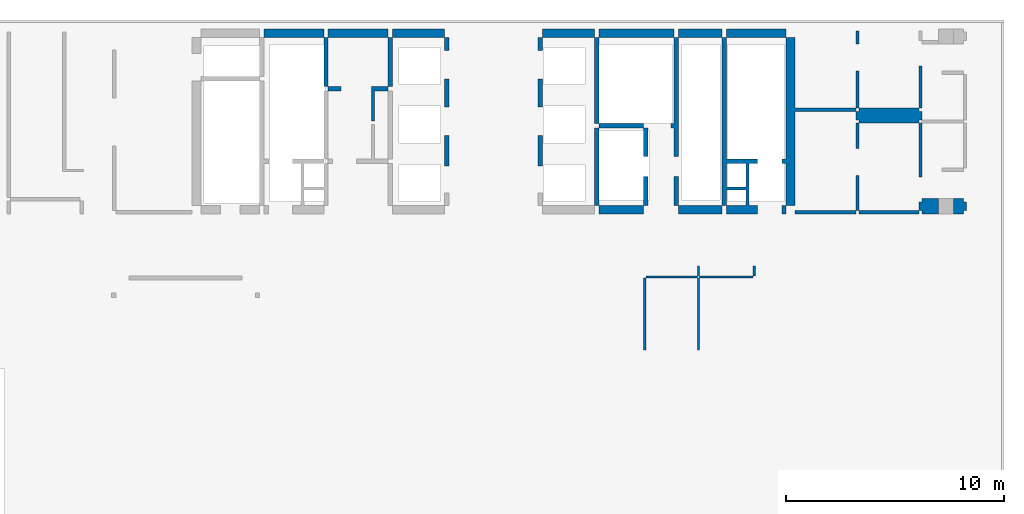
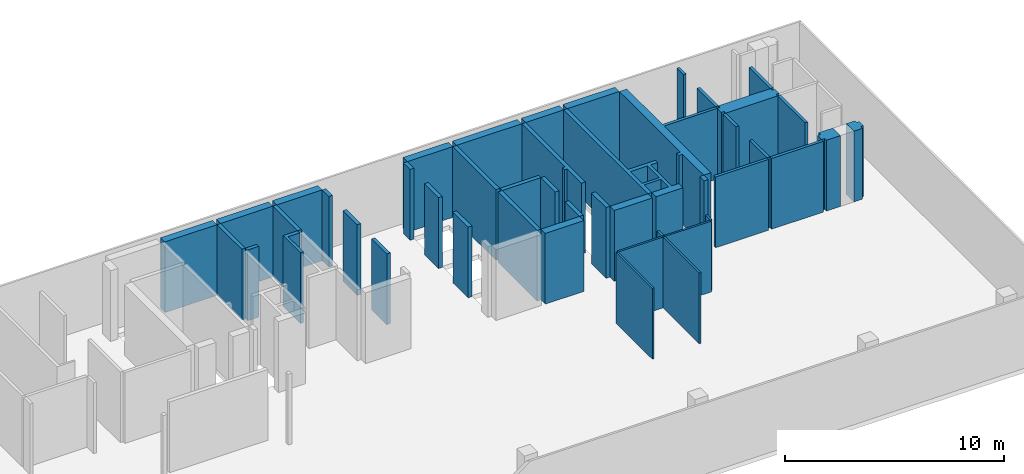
# One storey, part 2 of 4: 46 walls.
"""IFC4 building model written with IfcOpenShell, lengths in millimetres."""

import ifcopenshell
import ifcopenshell.guid

model = None  # the IFC model being written
_history = None  # IfcOwnerHistory: only IFC2X3 demands one
_inside = {}  # id of a spatial element -> (the spatial element, [elements in it])
_under = {}  # id of a project, library or spatial element -> (it, [spatial elements below it])
_declared = {}  # id of a project -> (the project, [libraries it declares])
_typed = {}  # id of a type object -> (the type object, [elements of that type])
_made_of = {}  # id of a material, layer set ... -> (it, [elements and type objects made of it])


def new_model(schema):
    """Start an empty IFC model of exactly this schema.

    Asked for "IFC4X3", IfcOpenShell would pick the latest addendum, in which some entities
    have other attributes; the version numbers below select the first issue.
    IFC2X3 requires an IfcOwnerHistory on every rooted entity: one is made here for all.
    """
    global model, _history
    if schema == "IFC4X3":
        model = ifcopenshell.file(schema_version=(4, 3, 0, 0))
    else:
        model = ifcopenshell.file(schema=schema)
    _inside.clear()
    _under.clear()
    _declared.clear()
    _typed.clear()
    _made_of.clear()
    _history = None
    if model.schema == "IFC2X3":
        org = make("IfcOrganization", Name="unknown")
        user = make(
            "IfcPersonAndOrganization",
            ThePerson=make("IfcPerson", FamilyName="unknown"),
            TheOrganization=org,
        )
        app = make(
            "IfcApplication",
            ApplicationDeveloper=org,
            Version="unknown",
            ApplicationFullName="unknown",
            ApplicationIdentifier="unknown",
        )
        _history = make(
            "IfcOwnerHistory",
            OwningUser=user,
            OwningApplication=app,
            ChangeAction="ADDED",
            CreationDate=0,
        )
    return model


def make(cls, **values):
    """One entity of the class cls with the attributes given. An attribute that is None is left unset."""
    return model.create_entity(
        cls, **{name: value for name, value in values.items() if value is not None}
    )


def rooted(cls, **values):
    """An entity with a GlobalId (a new one), such as an element, a storey or a relation."""
    return make(cls, GlobalId=ifcopenshell.guid.new(), OwnerHistory=_history, **values)


def si_unit(unit_type, name, prefix=None):
    """IfcSIUnit, for example si_unit("LENGTHUNIT", "METRE", prefix="MILLI")."""
    return make("IfcSIUnit", UnitType=unit_type, Prefix=prefix, Name=name)


def assignment(units):
    """IfcUnitAssignment: the units of a project."""
    return None if units is None else make("IfcUnitAssignment", Units=units)


def point(xyz):
    """IfcCartesianPoint."""
    return None if xyz is None else make("IfcCartesianPoint", Coordinates=xyz)


def direction(xyz):
    """IfcDirection."""
    return None if xyz is None else make("IfcDirection", DirectionRatios=xyz)


def frame(location, z_axis=None, x_axis=None):
    """IfcAxis2Placement3D, a coordinate frame: its origin and axes. An axis left out is left unset."""
    return make(
        "IfcAxis2Placement3D",
        Location=point(location),
        Axis=direction(z_axis),
        RefDirection=direction(x_axis),
    )


def origin():
    """The frame at (0, 0, 0) with its axes left unset."""
    return frame((0.0, 0.0, 0.0))


def place(relative_to, where):
    """IfcLocalPlacement: puts the frame where relative to a parent placement (None: the world)."""
    return make(
        "IfcLocalPlacement", PlacementRelTo=relative_to, RelativePlacement=where
    )


def context(
    kind, dimensions, precision=None, world=None, true_north=None, identifier=None
):
    """IfcGeometricRepresentationContext, for example the 3D "Model" context."""
    return make(
        "IfcGeometricRepresentationContext",
        ContextIdentifier=identifier,
        ContextType=kind,
        CoordinateSpaceDimension=dimensions,
        Precision=precision,
        WorldCoordinateSystem=world,
        TrueNorth=true_north,
    )


def project(units=None, contexts=None):
    """IfcProject with its units and contexts."""
    return rooted(
        "IfcProject",
        Name="project",
        RepresentationContexts=contexts,
        UnitsInContext=assignment(units),
    )


def spatial(cls, under=None, at=None, **own):
    """A site, building, storey or space (cls), placed at a placement, below another one or the project."""
    s = rooted(cls, ObjectPlacement=at, **own)
    if under is not None:
        _under.setdefault(under.id(), (under, []))[1].append(s)
    return s


def point_list(points):
    """IfcCartesianPointList2D or 3D."""
    cls = (
        "IfcCartesianPointList2D" if len(points[0]) == 2 else "IfcCartesianPointList3D"
    )
    return make(cls, CoordList=points)


def triangles(points, corners, closed=None, point_numbers=None):
    """IfcTriangulatedFaceSet: each triangle names its three corners, points numbered from 1."""
    return make(
        "IfcTriangulatedFaceSet",
        Coordinates=point_list(points),
        Closed=closed,
        CoordIndex=corners,
        PnIndex=point_numbers,
    )


def shape(context_of_items, identifier, shape_type, items):
    """IfcShapeRepresentation: the items that make up one representation, for example the "Body"."""
    return make(
        "IfcShapeRepresentation",
        ContextOfItems=context_of_items,
        RepresentationIdentifier=identifier,
        RepresentationType=shape_type,
        Items=items,
    )


def made_of(thing, what):
    """Note that an element or type object is made of a material, layer set ...; save() writes the relation."""
    if what is not None:
        _made_of.setdefault(what.id(), (what, []))[1].append(thing)
    return thing


def element(
    cls,
    number,
    at=None,
    inside=None,
    cuts=None,
    type_object=None,
    material=None,
    context=None,
    identifier="Body",
    shape_type=None,
    held_by="IfcProductDefinitionShape",
    body=None,
    shapes=None,
    **own,
):
    """One element of the class cls, such as IfcWall. Its Tag is "e" and its number.

    at: its placement. inside: the storey or other place that contains it. cuts: it is an
    opening in that element (IfcRelVoidsElement). A single representation is given by context,
    identifier, shape_type and body (its items); several are given by shapes. held_by: the class
    of the entity that holds the representations. save() writes the other relations.
    """
    e = rooted(cls, Tag="e%d" % number, ObjectPlacement=at, **own)
    if body is not None:
        shapes = [shape(context, identifier, shape_type, body)]
    if shapes is not None:
        e.Representation = make(held_by, Representations=shapes)
    if inside is not None:
        _inside.setdefault(inside.id(), (inside, []))[1].append(e)
    if cuts is not None:
        rooted(
            "IfcRelVoidsElement", RelatingBuildingElement=cuts, RelatedOpeningElement=e
        )
    if type_object is not None:
        _typed.setdefault(type_object.id(), (type_object, []))[1].append(e)
    return made_of(e, material)


def aggregate(whole, parts):
    """IfcRelAggregates: a whole, such as a stair, and the parts it consists of."""
    return rooted("IfcRelAggregates", RelatingObject=whole, RelatedObjects=parts)


def save(model, path):
    """Write the relations noted so far, then the file.

    IfcRelAggregates (storeys below a building ...), IfcRelContainedInSpatialStructure (elements
    in a storey), IfcRelDefinesByType, IfcRelAssociatesMaterial and IfcRelDeclares: one each for
    every whole, place, type object, material and project.
    """
    for whole, parts in _under.values():
        aggregate(whole, parts)
    for where, things in _inside.values():
        rooted(
            "IfcRelContainedInSpatialStructure",
            RelatedElements=things,
            RelatingStructure=where,
        )
    for kind, things in _typed.values():
        rooted("IfcRelDefinesByType", RelatedObjects=things, RelatingType=kind)
    for what, things in _made_of.values():
        rooted("IfcRelAssociatesMaterial", RelatedObjects=things, RelatingMaterial=what)
    for by, libraries in _declared.values():
        rooted("IfcRelDeclares", RelatingContext=by, RelatedDefinitions=libraries)
    model.write(path)


model = new_model("IFC4")

# Units and contexts
model_context = context("Model", 3, precision=0.001, world=origin())
ifc_project = project(units=[si_unit("LENGTHUNIT", "METRE", prefix="MILLI"), si_unit("AREAUNIT", "SQUARE_METRE"), si_unit("VOLUMEUNIT", "CUBIC_METRE")], contexts=[model_context])

# Site, building, storey
site_placement = place(None, origin())
site = spatial("IfcSite", under=ifc_project, at=site_placement, Name="Site", CompositionType="ELEMENT")
building_placement = place(site_placement, origin())
building = spatial("IfcBuilding", under=site, at=building_placement, Name="INNOCEAN", CompositionType="ELEMENT")
storey_placement = place(building_placement, frame((0.0, 0.0, 30200.0)))
storey = spatial("IfcBuildingStorey", under=building, at=storey_placement, Name="F07", CompositionType="ELEMENT", Elevation=30200.0)

# Walls
wall_1_placement = place(storey_placement, origin())
element("IfcWall", 1, at=wall_1_placement, inside=storey, Name="F07_Walls_F07_020", context=model_context, shape_type="Tessellation", body=[
    triangles([(19374.1, 22765.0, 0.0), (19374.1, 25025.8, 0.0), (19374.1, 25025.8, 3950.0), (19374.1, 22765.0, 3950.0), (19183.7, 22765.0, 0.0), (19183.7, 22765.0, 3950.0), (19183.7, 25025.8, 0.0), (19183.7, 25025.8, 3950.0)], [[1, 2, 3], [1, 3, 4], [5, 1, 4], [5, 4, 6], [7, 5, 6], [7, 6, 8], [2, 7, 8], [2, 8, 3], [7, 2, 1], [7, 1, 5], [3, 8, 4], [4, 8, 6]], closed=True),
])
wall_2_placement = place(storey_placement, origin())
element("IfcWall", 2, at=wall_2_placement, inside=storey, Name="F07_Walls_F07_024", context=model_context, shape_type="Tessellation", body=[
    triangles([(19183.7, 25025.8, 0.0), (19183.7, 25419.5, 0.0), (19183.7, 25419.5, 3950.0), (19183.7, 25025.8, 3950.0), (16429.3, 25025.8, 0.0), (16429.3, 25025.8, 3950.0), (16429.3, 25419.5, 0.0), (16429.3, 25419.5, 3950.0)], [[1, 2, 3], [1, 3, 4], [5, 1, 4], [5, 4, 6], [7, 5, 6], [7, 6, 8], [2, 7, 8], [2, 8, 3], [7, 2, 1], [7, 1, 5], [3, 8, 4], [4, 8, 6]], closed=True),
])
wall_3_placement = place(storey_placement, origin())
element("IfcWall", 3, at=wall_3_placement, inside=storey, Name="F07_Walls_F07_025", context=model_context, shape_type="Tessellation", body=[
    triangles([(33971.3, 10673.3, 0.0), (33971.3, 13975.7, 0.0), (33971.3, 13975.7, 3950.0), (33971.3, 10673.3, 3950.0), (33869.8, 10673.3, 0.0), (33869.8, 10673.3, 3950.0), (33869.8, 13975.7, 0.0), (33869.8, 13975.7, 3950.0)], [[1, 2, 3], [1, 3, 4], [5, 1, 4], [5, 4, 6], [7, 5, 6], [7, 6, 8], [2, 7, 8], [2, 8, 3], [7, 2, 1], [7, 1, 5], [3, 8, 4], [4, 8, 6]], closed=True),
])
wall_4_placement = place(storey_placement, origin())
element("IfcWall", 4, at=wall_4_placement, inside=storey, Name="F07_Walls_F07_027", context=model_context, shape_type="Tessellation", body=[
    triangles([(33869.8, 17316.1, 0.0), (33869.8, 17316.1, 3950.0), (33869.8, 16922.4, 3950.0), (33869.8, 16922.4, 0.0), (31826.2, 16922.4, 0.0), (31826.2, 16922.4, 3950.0), (31826.2, 17316.1, 3950.0), (31826.2, 17316.1, 0.0)], [[1, 2, 3], [4, 1, 3], [5, 4, 3], [5, 3, 6], [5, 6, 7], [8, 5, 7], [1, 8, 7], [1, 7, 2], [8, 1, 4], [8, 4, 5], [2, 7, 3], [3, 7, 6]], closed=True),
])
wall_5_placement = place(storey_placement, origin())
element("IfcWall", 5, at=wall_5_placement, inside=storey, Name="F07_Walls_F07_032", context=model_context, shape_type="Tessellation", body=[
    triangles([(31826.2, 20872.5, 0.0), (31826.2, 20872.5, 3950.0), (31826.2, 17316.1, 3950.0), (31826.2, 17316.1, 0.0), (31623.1, 17316.1, 3950.0), (31623.1, 17316.1, 0.0), (31623.1, 20872.5, 3950.0), (31623.1, 20872.5, 0.0)], [[1, 2, 3], [4, 1, 3], [4, 3, 5], [6, 4, 5], [6, 5, 7], [8, 6, 7], [8, 7, 2], [1, 8, 2], [8, 1, 4], [8, 4, 6], [2, 7, 3], [3, 7, 5]], closed=True),
])
wall_6_placement = place(storey_placement, origin())
element("IfcWall", 6, at=wall_6_placement, inside=storey, Name="F07_Walls_F07_035", context=model_context, shape_type="Tessellation", body=[
    triangles([(24730.6, 19119.7, 0.0), (24921.0, 19119.7, 0.0), (24921.0, 19119.7, 3950.0), (24730.6, 19119.7, 3950.0), (24730.6, 19120.0, 0.0), (24730.6, 19120.0, 3950.0), (24730.0, 19120.0, 0.0), (24730.0, 19120.0, 3950.0), (24730.0, 20515.0, 0.0), (24730.0, 20515.0, 3950.0), (24730.6, 20515.0, 0.0), (24730.6, 20515.0, 3950.0), (24730.6, 20516.8, 3950.0), (24730.6, 20516.8, 0.0), (24921.0, 20516.8, 0.0), (24921.0, 20516.8, 3950.0)], [[1, 2, 3], [1, 3, 4], [5, 1, 4], [5, 4, 6], [7, 5, 6], [7, 6, 8], [9, 7, 8], [9, 8, 10], [11, 9, 10], [11, 10, 12], [11, 12, 13], [14, 11, 13], [15, 14, 13], [15, 13, 16], [2, 15, 16], [2, 16, 3], [5, 2, 1], [11, 15, 2], [11, 2, 5], [9, 5, 7], [9, 11, 5], [14, 15, 11], [3, 6, 4], [16, 12, 3], [3, 12, 6], [6, 10, 8], [12, 10, 6], [16, 13, 12]], closed=True),
])
wall_7_placement = place(storey_placement, origin())
element("IfcWall", 7, at=wall_7_placement, inside=storey, Name="F07_Walls_F07_036", context=model_context, shape_type="Tessellation", body=[
    triangles([(29224.0, 20516.8, 0.0), (29224.0, 20516.8, 3950.0), (29224.0, 20515.0, 3950.0), (29224.0, 20515.0, 0.0), (29225.0, 20515.0, 0.0), (29225.0, 20515.0, 3950.0), (29225.0, 19120.0, 0.0), (29225.0, 19120.0, 3950.0), (29224.0, 19120.0, 0.0), (29224.0, 19120.0, 3950.0), (29224.0, 19119.7, 0.0), (29224.0, 19119.7, 3950.0), (29020.9, 19119.7, 0.0), (29020.9, 19119.7, 3950.0), (29020.9, 19120.0, 0.0), (29020.9, 19120.0, 3950.0), (29020.0, 19120.0, 0.0), (29020.0, 19120.0, 3950.0), (29020.0, 20515.0, 0.0), (29020.0, 20515.0, 3950.0), (29020.9, 20515.0, 0.0), (29020.9, 20515.0, 3950.0), (29020.9, 20516.8, 3950.0), (29020.9, 20516.8, 0.0)], [[1, 2, 3], [4, 1, 3], [5, 4, 3], [5, 3, 6], [7, 5, 6], [7, 6, 8], [9, 7, 8], [9, 8, 10], [11, 9, 10], [11, 10, 12], [13, 11, 12], [13, 12, 14], [15, 13, 14], [15, 14, 16], [17, 15, 16], [17, 16, 18], [19, 17, 18], [19, 18, 20], [21, 19, 20], [21, 20, 22], [21, 22, 23], [24, 21, 23], [1, 24, 23], [1, 23, 2], [15, 9, 11], [15, 11, 13], [4, 5, 7], [4, 7, 9], [4, 9, 15], [21, 4, 15], [19, 15, 17], [19, 21, 15], [24, 1, 4], [24, 4, 21], [10, 16, 12], [12, 16, 14], [6, 3, 8], [8, 3, 10], [10, 3, 16], [3, 22, 16], [16, 20, 18], [22, 20, 16], [2, 23, 3], [3, 23, 22]], closed=True),
])
wall_8_placement = place(storey_placement, origin())
element("IfcWall", 8, at=wall_8_placement, inside=storey, Name="F07_Walls_F07_037", context=model_context, shape_type="Tessellation", body=[
    triangles([(33869.8, 20872.5, 0.0), (33869.8, 21075.7, 0.0), (33869.8, 21075.7, 3950.0), (33869.8, 20872.5, 3950.0), (31826.2, 20872.5, 0.0), (31826.2, 20872.5, 3950.0), (31826.2, 21075.7, 0.0), (31826.2, 21075.7, 3950.0)], [[1, 2, 3], [1, 3, 4], [5, 1, 4], [5, 4, 6], [7, 5, 6], [7, 6, 8], [2, 7, 8], [2, 8, 3], [7, 2, 1], [7, 1, 5], [3, 8, 4], [4, 8, 6]], closed=True),
])
wall_9_placement = place(storey_placement, origin())
element("IfcWall", 9, at=wall_9_placement, inside=storey, Name="F07_Walls_F07_039", context=model_context, shape_type="Tessellation", body=[
    triangles([(22128.5, 22765.0, 0.0), (21366.9, 22765.0, 0.0), (21366.9, 22765.0, 3950.0), (22128.5, 22765.0, 3950.0), (22128.5, 22574.4, 3950.0), (22128.5, 22574.4, 0.0), (21519.3, 22574.4, 0.0), (21519.3, 22574.4, 3950.0), (21519.3, 21177.3, 0.0), (21519.3, 21177.3, 3950.0), (21366.9, 21177.3, 0.0), (21366.9, 21177.3, 3950.0), (21366.9, 22574.4, 0.0), (21366.9, 22574.4, 3950.0)], [[1, 2, 3], [1, 3, 4], [1, 4, 5], [6, 1, 5], [7, 6, 5], [7, 5, 8], [9, 7, 8], [9, 8, 10], [11, 9, 10], [11, 10, 12], [13, 11, 12], [13, 12, 14], [13, 14, 3], [2, 13, 3], [7, 1, 6], [13, 7, 9], [13, 9, 11], [2, 1, 7], [2, 7, 13], [4, 8, 5], [8, 14, 10], [10, 14, 12], [4, 3, 8], [8, 3, 14]], closed=True),
])
wall_10_placement = place(storey_placement, origin())
element("IfcWall", 10, at=wall_10_placement, inside=storey, Name="F07_Walls_F07_040", context=model_context, shape_type="Tessellation", body=[
    triangles([(29020.9, 23120.6, 0.0), (29020.9, 23120.0, 0.0), (29020.9, 23120.0, 3950.0), (29020.9, 23120.6, 3950.0), (29224.0, 23120.6, 0.0), (29224.0, 23120.6, 3950.0), (29224.0, 23120.0, 0.0), (29224.0, 23120.0, 3950.0), (29225.0, 23120.0, 0.0), (29225.0, 23120.0, 3950.0), (29225.0, 21825.0, 3950.0), (29225.0, 21825.0, 0.0), (29020.0, 21825.0, 0.0), (29020.0, 21825.0, 3950.0), (29020.0, 23120.0, 3950.0), (29020.0, 23120.0, 0.0)], [[1, 2, 3], [1, 3, 4], [5, 1, 4], [5, 4, 6], [7, 5, 6], [7, 6, 8], [9, 7, 8], [9, 8, 10], [9, 10, 11], [12, 9, 11], [13, 12, 11], [13, 11, 14], [13, 14, 15], [16, 13, 15], [2, 16, 15], [2, 15, 3], [7, 9, 12], [7, 12, 13], [2, 7, 13], [1, 5, 7], [1, 7, 2], [16, 2, 13], [10, 8, 11], [11, 8, 14], [8, 3, 14], [6, 4, 8], [8, 4, 3], [3, 15, 14]], closed=True),
])
wall_11_placement = place(storey_placement, origin())
element("IfcWall", 11, at=wall_11_placement, inside=storey, Name="F07_Walls_F07_041", context=model_context, shape_type="Tessellation", body=[
    triangles([(24920.0, 21825.0, 0.0), (24920.0, 21825.1, 0.0), (24920.0, 21825.1, 3950.0), (24920.0, 21825.0, 3950.0), (24730.0, 21825.0, 0.0), (24730.0, 21825.0, 3950.0), (24730.0, 23120.0, 3950.0), (24730.0, 23120.0, 0.0), (24730.6, 23120.0, 0.0), (24730.6, 23120.0, 3950.0), (24730.6, 23120.6, 0.0), (24730.6, 23120.6, 3950.0), (24921.0, 23120.6, 0.0), (24921.0, 23120.6, 3950.0), (24921.0, 21825.1, 0.0), (24921.0, 21825.1, 3950.0)], [[1, 2, 3], [1, 3, 4], [5, 1, 4], [5, 4, 6], [5, 6, 7], [8, 5, 7], [9, 8, 7], [9, 7, 10], [11, 9, 10], [11, 10, 12], [13, 11, 12], [13, 12, 14], [15, 13, 14], [15, 14, 16], [2, 15, 16], [2, 16, 3], [5, 2, 1], [13, 15, 2], [9, 13, 2], [9, 2, 5], [8, 9, 5], [11, 13, 9], [3, 6, 4], [16, 14, 3], [14, 10, 3], [3, 10, 6], [10, 7, 6], [14, 12, 10]], closed=True),
])
wall_12_placement = place(storey_placement, origin())
element("IfcWall", 12, at=wall_12_placement, inside=storey, Name="F07_Walls_F07_042", context=model_context, shape_type="Tessellation", body=[
    triangles([(19970.7, 22765.0, 0.0), (19970.7, 22765.0, 3950.0), (19970.7, 22574.4, 3950.0), (19970.7, 22574.4, 0.0), (19374.1, 22574.4, 0.0), (19374.1, 22574.4, 3950.0), (19374.1, 22765.0, 3950.0), (19374.1, 22765.0, 0.0)], [[1, 2, 3], [4, 1, 3], [5, 4, 3], [5, 3, 6], [5, 6, 7], [8, 5, 7], [1, 8, 7], [1, 7, 2], [8, 1, 4], [8, 4, 5], [2, 7, 3], [3, 7, 6]], closed=True),
])
wall_13_placement = place(storey_placement, origin())
element("IfcWall", 13, at=wall_13_placement, inside=storey, Name="F07_Walls_F07_043", context=model_context, shape_type="Tessellation", body=[
    triangles([(31826.2, 21075.7, 3950.0), (31826.2, 25025.8, 0.0), (31826.2, 25025.8, 3950.0), (31826.2, 21075.7, 0.0), (31623.1, 21075.7, 3950.0), (31623.1, 21075.7, 0.0), (31623.1, 25025.8, 3950.0), (31623.1, 25025.8, 0.0)], [[1, 2, 3], [4, 2, 1], [4, 1, 5], [6, 4, 5], [7, 6, 5], [8, 6, 7], [8, 7, 3], [2, 8, 3], [2, 4, 6], [8, 2, 6], [1, 3, 5], [3, 7, 5]], closed=True),
])
wall_14_placement = place(storey_placement, origin())
element("IfcWall", 14, at=wall_14_placement, inside=storey, Name="F07_Walls_F07_044", context=model_context, shape_type="Tessellation", body=[
    triangles([(22331.6, 22765.0, 0.0), (22331.6, 25025.8, 0.0), (22331.6, 25025.8, 3950.0), (22331.6, 22765.0, 3950.0), (22128.5, 22765.0, 0.0), (22128.5, 22765.0, 3950.0), (22128.5, 25025.8, 0.0), (22128.5, 25025.8, 3950.0)], [[1, 2, 3], [1, 3, 4], [5, 1, 4], [5, 4, 6], [7, 5, 6], [7, 6, 8], [2, 7, 8], [2, 8, 3], [7, 2, 1], [7, 1, 5], [3, 8, 4], [4, 8, 6]], closed=True),
])
wall_15_placement = place(storey_placement, origin())
element("IfcWall", 15, at=wall_15_placement, inside=storey, Name="F07_Walls_F07_045", context=model_context, shape_type="Tessellation", body=[
    triangles([(29224.0, 24416.1, 0.0), (29224.0, 25025.8, 0.0), (29224.0, 25025.8, 3950.0), (29224.0, 24416.1, 3950.0), (29020.9, 24416.1, 0.0), (29020.9, 24416.1, 3950.0), (29020.9, 25025.8, 0.0), (29020.9, 25025.8, 3950.0)], [[1, 2, 3], [1, 3, 4], [5, 1, 4], [5, 4, 6], [7, 5, 6], [7, 6, 8], [2, 7, 8], [2, 8, 3], [7, 2, 1], [7, 1, 5], [3, 8, 4], [4, 8, 6]], closed=True),
])
wall_16_placement = place(storey_placement, origin())
element("IfcWall", 16, at=wall_16_placement, inside=storey, Name="F07_Walls_F07_046", context=model_context, shape_type="Tessellation", body=[
    triangles([(24921.0, 24416.1, 0.0), (24921.0, 25025.8, 0.0), (24921.0, 25025.8, 3950.0), (24921.0, 24416.1, 3950.0), (24730.6, 24416.1, 0.0), (24730.6, 24416.1, 3950.0), (24730.6, 25025.8, 0.0), (24730.6, 25025.8, 3950.0)], [[1, 2, 3], [1, 3, 4], [5, 1, 4], [5, 4, 6], [7, 5, 6], [7, 6, 8], [2, 7, 8], [2, 8, 3], [7, 2, 1], [7, 1, 5], [3, 8, 4], [4, 8, 6]], closed=True),
])
wall_17_placement = place(storey_placement, origin())
element("IfcWall", 17, at=wall_17_placement, inside=storey, Name="F07_Walls_F07_047", context=model_context, shape_type="Tessellation", body=[
    triangles([(19374.1, 25025.8, 0.0), (22128.5, 25025.8, 0.0), (22128.5, 25025.8, 3950.0), (19374.1, 25025.8, 3950.0), (19374.1, 25419.5, 0.0), (19374.1, 25419.5, 3950.0), (22128.5, 25419.5, 0.0), (22128.5, 25419.5, 3950.0)], [[1, 2, 3], [1, 3, 4], [5, 1, 4], [5, 4, 6], [7, 5, 6], [7, 6, 8], [2, 7, 8], [2, 8, 3], [5, 2, 1], [5, 7, 2], [3, 6, 4], [8, 6, 3]], closed=True),
])
wall_18_placement = place(storey_placement, origin())
element("IfcWall", 18, at=wall_18_placement, inside=storey, Name="F07_Walls_F07_048", context=model_context, shape_type="Tessellation", body=[
    triangles([(29224.0, 25025.8, 0.0), (31623.1, 25025.8, 0.0), (31623.1, 25025.8, 3950.0), (29224.0, 25025.8, 3950.0), (29224.0, 25419.5, 0.0), (29224.0, 25419.5, 3950.0), (31623.1, 25419.5, 0.0), (31623.1, 25419.5, 3950.0)], [[1, 2, 3], [1, 3, 4], [5, 1, 4], [5, 4, 6], [7, 5, 6], [7, 6, 8], [2, 7, 8], [2, 8, 3], [5, 2, 1], [5, 7, 2], [3, 6, 4], [8, 6, 3]], closed=True),
])
wall_19_placement = place(storey_placement, origin())
element("IfcWall", 19, at=wall_19_placement, inside=storey, Name="F07_Walls_F07_049", context=model_context, shape_type="Tessellation", body=[
    triangles([(24730.6, 25025.8, 0.0), (24730.6, 25419.5, 0.0), (24730.6, 25419.5, 3950.0), (24730.6, 25025.8, 3950.0), (22331.6, 25025.8, 0.0), (22331.6, 25025.8, 3950.0), (22331.6, 25419.5, 0.0), (22331.6, 25419.5, 3950.0)], [[1, 2, 3], [1, 3, 4], [5, 1, 4], [5, 4, 6], [7, 5, 6], [7, 6, 8], [2, 7, 8], [2, 8, 3], [7, 2, 1], [7, 1, 5], [3, 8, 4], [4, 8, 6]], closed=True),
])
wall_20_placement = place(storey_placement, origin())
element("IfcWall", 20, at=wall_20_placement, inside=storey, Name="F07_Walls_F07_050", context=model_context, shape_type="Tessellation", body=[
    triangles([(35266.0, 25025.8, 0.0), (35266.0, 25419.5, 0.0), (35266.0, 25419.5, 3950.0), (35266.0, 25025.8, 3950.0), (31826.2, 25025.8, 0.0), (31826.2, 25025.8, 3950.0), (31826.2, 25419.5, 0.0), (31826.2, 25419.5, 3950.0)], [[1, 2, 3], [1, 3, 4], [5, 1, 4], [5, 4, 6], [7, 5, 6], [7, 6, 8], [2, 7, 8], [2, 8, 3], [7, 2, 1], [7, 1, 5], [3, 8, 4], [4, 8, 6]], closed=True),
])
wall_21_placement = place(storey_placement, origin())
element("IfcWall", 21, at=wall_21_placement, inside=storey, Name="F07_Walls_F07_051", context=model_context, shape_type="Tessellation", body=[
    triangles([(36344.9, 13975.7, 0.0), (36344.9, 10673.3, 0.0), (36344.9, 10673.3, 3950.0), (36344.9, 13975.7, 3950.0), (36446.5, 13975.7, 0.0), (36446.5, 13975.7, 3950.0), (36446.5, 10673.3, 0.0), (36446.5, 10673.3, 3950.0)], [[1, 2, 3], [1, 3, 4], [5, 1, 4], [5, 4, 6], [7, 5, 6], [7, 6, 8], [2, 7, 8], [2, 8, 3], [1, 5, 7], [1, 7, 2], [6, 4, 8], [8, 4, 3]], closed=True),
])
wall_22_placement = place(storey_placement, origin())
element("IfcWall", 22, at=wall_22_placement, inside=storey, Name="F07_Walls_F07_052", context=model_context, shape_type="Tessellation", body=[
    triangles([(36344.9, 13975.7, 0.0), (36344.9, 14077.3, 0.0), (36344.9, 14077.3, 3950.0), (36344.9, 13975.7, 3950.0), (33971.3, 13975.7, 0.0), (33971.3, 13975.7, 3950.0), (33971.3, 14077.3, 0.0), (33971.3, 14077.3, 3950.0)], [[1, 2, 3], [1, 3, 4], [5, 1, 4], [5, 4, 6], [7, 5, 6], [7, 6, 8], [2, 7, 8], [2, 8, 3], [7, 2, 1], [7, 1, 5], [3, 8, 4], [4, 8, 6]], closed=True),
])
wall_23_placement = place(storey_placement, origin())
element("IfcWall", 23, at=wall_23_placement, inside=storey, Name="F07_Walls_F07_053", context=model_context, shape_type="Tessellation", body=[
    triangles([(38896.3, 14077.3, 0.0), (36446.5, 14077.3, 0.0), (36446.5, 14077.3, 3950.0), (38896.3, 14077.3, 3950.0), (38896.3, 13975.7, 0.0), (38896.3, 13975.7, 3950.0), (36446.5, 13975.7, 0.0), (36446.5, 13975.7, 3950.0)], [[1, 2, 3], [1, 3, 4], [5, 1, 4], [5, 4, 6], [7, 5, 6], [7, 6, 8], [2, 7, 8], [2, 8, 3], [7, 1, 5], [2, 1, 7], [4, 8, 6], [4, 3, 8]], closed=True),
])
wall_24_placement = place(storey_placement, origin())
element("IfcWall", 24, at=wall_24_placement, inside=storey, Name="F07_Walls_F07_054", context=model_context, shape_type="Tessellation", body=[
    triangles([(38896.3, 14077.3, 0.0), (38997.8, 14077.3, 0.0), (38997.8, 14077.3, 3950.0), (38896.3, 14077.3, 3950.0), (38896.3, 14521.8, 0.0), (38896.3, 14521.8, 3950.0), (38997.8, 14521.8, 0.0), (38997.8, 14521.8, 3950.0)], [[1, 2, 3], [1, 3, 4], [5, 1, 4], [5, 4, 6], [7, 5, 6], [7, 6, 8], [2, 7, 8], [2, 8, 3], [5, 2, 1], [5, 7, 2], [3, 6, 4], [8, 6, 3]], closed=True),
])
wall_25_placement = place(storey_placement, origin())
element("IfcWall", 25, at=wall_25_placement, inside=storey, Name="F07_Walls_F07_055", context=model_context, shape_type="Tessellation", body=[
    triangles([(36446.5, 14077.3, 0.0), (36446.5, 14521.8, 0.0), (36446.5, 14521.8, 3950.0), (36446.5, 14077.3, 3950.0), (36344.9, 14077.3, 0.0), (36344.9, 14077.3, 3950.0), (36344.9, 14521.8, 0.0), (36344.9, 14521.8, 3950.0)], [[1, 2, 3], [1, 3, 4], [5, 1, 4], [5, 4, 6], [7, 5, 6], [7, 6, 8], [2, 7, 8], [2, 8, 3], [7, 2, 1], [7, 1, 5], [3, 8, 4], [4, 8, 6]], closed=True),
])
wall_26_placement = place(storey_placement, origin())
element("IfcWall", 26, at=wall_26_placement, inside=storey, Name="F07_Walls_F07_056", context=model_context, shape_type="Tessellation", body=[
    triangles([(43618.2, 16922.4, 0.0), (43618.2, 17074.8, 0.0), (43618.2, 17074.8, 3950.0), (43618.2, 16922.4, 3950.0), (40813.0, 16922.4, 0.0), (40813.0, 16922.4, 3950.0), (40813.0, 17074.8, 0.0), (40813.0, 17074.8, 3950.0)], [[1, 2, 3], [1, 3, 4], [5, 1, 4], [5, 4, 6], [7, 5, 6], [7, 6, 8], [2, 7, 8], [2, 8, 3], [5, 2, 1], [7, 2, 5], [3, 6, 4], [3, 8, 6]], closed=True),
])
wall_27_placement = place(storey_placement, origin())
element("IfcWall", 27, at=wall_27_placement, inside=storey, Name="F07_Walls_F07_057", context=model_context, shape_type="Tessellation", body=[
    triangles([(37665.0, 16922.4, 0.0), (37665.0, 16922.4, 3950.0), (37665.0, 17316.1, 3950.0), (37665.0, 17316.1, 0.0), (39099.4, 16922.4, 0.0), (39099.4, 16922.4, 3950.0), (39099.4, 17316.1, 0.0), (39099.4, 17316.1, 3950.0), (38720.0, 17316.1, 0.0), (38720.0, 17316.1, 3950.0), (38720.0, 19245.0, 0.0), (38720.0, 19245.0, 3950.0), (39100.0, 19245.0, 0.0), (39100.0, 19245.0, 3950.0), (39100.0, 19450.0, 0.0), (39100.0, 19450.0, 3950.0), (37665.0, 19450.0, 0.0), (37665.0, 19450.0, 3950.0), (37665.0, 25025.8, 0.0), (37665.0, 25025.8, 3950.0), (37474.6, 25025.8, 0.0), (37474.6, 25025.8, 3950.0), (37474.6, 19449.9, 0.0), (37474.6, 19449.9, 3950.0), (37474.6, 17316.1, 0.0), (37474.6, 17316.1, 3950.0), (37665.0, 18014.7, 0.0), (37665.0, 18014.7, 3950.0), (38565.0, 18014.7, 0.0), (38565.0, 18014.7, 3950.0), (38565.0, 17316.1, 0.0), (38565.0, 17316.1, 3950.0), (37665.0, 19245.0, 0.0), (38565.0, 19245.0, 0.0), (38565.0, 19245.0, 3950.0), (37665.0, 19245.0, 3950.0), (38565.0, 18167.1, 0.0), (38565.0, 18167.1, 3950.0), (37665.0, 18167.1, 0.0), (37665.0, 18167.1, 3950.0)], [[1, 2, 3], [4, 1, 3], [1, 5, 6], [1, 6, 2], [7, 8, 6], [5, 7, 6], [7, 9, 10], [7, 10, 8], [9, 11, 12], [9, 12, 10], [13, 14, 12], [11, 13, 12], [13, 15, 16], [13, 16, 14], [15, 17, 18], [15, 18, 16], [17, 19, 20], [17, 20, 18], [19, 21, 22], [19, 22, 20], [21, 23, 24], [21, 24, 22], [23, 25, 26], [23, 26, 24], [25, 4, 3], [25, 3, 26], [4, 27, 28], [4, 28, 3], [27, 29, 30], [27, 30, 28], [29, 31, 32], [29, 32, 30], [31, 4, 3], [31, 3, 32], [33, 34, 35], [33, 35, 36], [34, 37, 38], [34, 38, 35], [37, 39, 40], [37, 40, 38], [39, 33, 36], [39, 36, 40], [9, 7, 5], [31, 9, 5], [1, 31, 5], [29, 9, 31], [4, 31, 1], [27, 4, 25], [39, 29, 27], [39, 37, 29], [39, 27, 25], [11, 15, 13], [34, 11, 37], [34, 15, 11], [17, 34, 33], [17, 15, 34], [23, 33, 39], [23, 17, 33], [23, 39, 25], [21, 19, 17], [21, 17, 23], [11, 9, 29], [11, 29, 37], [8, 10, 6], [10, 32, 6], [32, 2, 6], [10, 30, 32], [32, 3, 2], [3, 28, 26], [30, 40, 28], [38, 40, 30], [28, 40, 26], [16, 12, 14], [12, 35, 38], [16, 35, 12], [35, 18, 36], [16, 18, 35], [36, 24, 40], [18, 24, 36], [40, 24, 26], [20, 22, 18], [18, 22, 24], [10, 12, 30], [30, 12, 38]], closed=True),
])
wall_28_placement = place(storey_placement, origin())
element("IfcWall", 28, at=wall_28_placement, inside=storey, Name="F07_Walls_F07_058", context=model_context, shape_type="Tessellation", body=[
    triangles([(40419.5, 17316.1, 0.0), (40419.5, 17316.1, 3950.0), (40419.5, 16922.4, 3950.0), (40419.5, 16922.4, 0.0), (40216.4, 16922.4, 0.0), (40216.4, 16922.4, 3950.0), (40216.4, 17316.1, 3950.0), (40216.4, 17316.1, 0.0)], [[1, 2, 3], [4, 1, 3], [5, 4, 3], [5, 3, 6], [5, 6, 7], [8, 5, 7], [1, 8, 7], [1, 7, 2], [8, 1, 4], [8, 4, 5], [2, 7, 3], [3, 7, 6]], closed=True),
])
wall_29_placement = place(storey_placement, origin())
element("IfcWall", 29, at=wall_29_placement, inside=storey, Name="F07_Walls_F07_059", context=model_context, shape_type="Tessellation", body=[
    triangles([(37474.6, 17316.1, 0.0), (37474.6, 17316.1, 3950.0), (37474.6, 16922.4, 3950.0), (37474.6, 16922.4, 0.0), (35469.1, 16922.4, 0.0), (35469.1, 16922.4, 3950.0), (35469.1, 17316.1, 3950.0), (35469.1, 17316.1, 0.0)], [[1, 2, 3], [4, 1, 3], [5, 4, 3], [5, 3, 6], [5, 6, 7], [8, 5, 7], [1, 8, 7], [1, 7, 2], [8, 1, 4], [8, 4, 5], [2, 7, 3], [3, 7, 6]], closed=True),
])
wall_30_placement = place(storey_placement, origin())
element("IfcWall", 30, at=wall_30_placement, inside=storey, Name="F07_Walls_F07_060", context=model_context, shape_type="Tessellation", body=[
    triangles([(43770.5, 17074.8, 0.0), (43770.5, 18675.1, 0.0), (43770.5, 18675.1, 3950.0), (43770.5, 17074.8, 3950.0), (43618.2, 17074.8, 0.0), (43618.2, 17074.8, 3950.0), (43618.2, 18675.1, 0.0), (43618.2, 18675.1, 3950.0)], [[1, 2, 3], [1, 3, 4], [5, 1, 4], [5, 4, 6], [7, 5, 6], [7, 6, 8], [2, 7, 8], [2, 8, 3], [2, 1, 5], [7, 2, 5], [4, 3, 6], [3, 8, 6]], closed=True),
])
wall_31_placement = place(storey_placement, origin())
element("IfcWall", 31, at=wall_31_placement, inside=storey, Name="F07_Walls_F07_061", context=model_context, shape_type="Tessellation", body=[
    triangles([(35469.1, 17316.1, 0.0), (35469.1, 18649.7, 0.0), (35469.1, 18649.7, 3950.0), (35469.1, 17316.1, 3950.0), (35266.0, 17316.1, 0.0), (35266.0, 17316.1, 3950.0), (35266.0, 18649.7, 0.0), (35266.0, 18649.7, 3950.0)], [[1, 2, 3], [1, 3, 4], [5, 1, 4], [5, 4, 6], [7, 5, 6], [7, 6, 8], [2, 7, 8], [2, 8, 3], [7, 2, 1], [7, 1, 5], [3, 8, 4], [4, 8, 6]], closed=True),
])
wall_32_placement = place(storey_placement, origin())
element("IfcWall", 32, at=wall_32_placement, inside=storey, Name="F07_Walls_F07_062", context=model_context, shape_type="Tessellation", body=[
    triangles([(34072.9, 17316.1, 0.0), (34072.9, 18649.7, 0.0), (34072.9, 18649.7, 3950.0), (34072.9, 17316.1, 3950.0), (33869.8, 17316.1, 0.0), (33869.8, 17316.1, 3950.0), (33869.8, 18649.7, 0.0), (33869.8, 18649.7, 3950.0)], [[1, 2, 3], [1, 3, 4], [5, 1, 4], [5, 4, 6], [7, 5, 6], [7, 6, 8], [2, 7, 8], [2, 8, 3], [7, 2, 1], [7, 1, 5], [3, 8, 4], [4, 8, 6]], closed=True),
])
wall_33_placement = place(storey_placement, origin())
element("IfcWall", 33, at=wall_33_placement, inside=storey, Name="F07_Walls_F07_063", context=model_context, shape_type="Tessellation", body=[
    triangles([(40215.0, 19450.0, 0.0), (40215.0, 19245.0, 0.0), (40215.0, 19245.0, 3950.0), (40215.0, 19450.0, 3950.0), (40419.5, 19450.0, 3950.0), (40419.5, 19450.0, 0.0), (40419.5, 25025.8, 0.0), (40419.5, 25025.8, 3950.0), (40813.0, 25025.8, 0.0), (40813.0, 25025.8, 3950.0), (40813.0, 21774.3, 0.0), (40813.0, 21774.3, 3950.0), (43618.2, 21774.3, 0.0), (43618.2, 21774.3, 3950.0), (43618.2, 21621.8, 0.0), (43618.2, 21621.8, 3950.0), (40813.0, 21621.8, 0.0), (40813.0, 21621.8, 3950.0), (40813.0, 19449.9, 0.0), (40813.0, 19449.9, 3950.0), (40813.0, 17316.1, 0.0), (40813.0, 17316.1, 3950.0), (40419.5, 17316.1, 0.0), (40419.5, 17316.1, 3950.0), (40419.5, 19245.0, 0.0), (40419.5, 19245.0, 3950.0)], [[1, 2, 3], [1, 3, 4], [1, 4, 5], [6, 1, 5], [7, 6, 5], [7, 5, 8], [9, 7, 8], [9, 8, 10], [11, 9, 10], [11, 10, 12], [13, 11, 12], [13, 12, 14], [15, 13, 14], [15, 14, 16], [17, 15, 16], [17, 16, 18], [19, 17, 18], [19, 18, 20], [21, 19, 20], [21, 20, 22], [23, 21, 22], [23, 22, 24], [25, 23, 24], [25, 24, 26], [25, 26, 3], [2, 25, 3], [25, 19, 21], [25, 21, 23], [6, 25, 2], [6, 19, 25], [1, 6, 2], [17, 19, 6], [11, 13, 15], [11, 15, 17], [7, 9, 11], [6, 7, 11], [6, 11, 17], [20, 26, 22], [22, 26, 24], [26, 5, 3], [20, 5, 26], [5, 4, 3], [20, 18, 5], [14, 12, 16], [16, 12, 18], [10, 8, 12], [8, 5, 12], [12, 5, 18]], closed=True),
])
wall_34_placement = place(storey_placement, origin())
element("IfcWall", 34, at=wall_34_placement, inside=storey, Name="F07_Walls_F07_064", context=model_context, shape_type="Tessellation", body=[
    triangles([(34072.9, 19551.5, 0.0), (34072.9, 20872.5, 0.0), (34072.9, 20872.5, 3950.0), (34072.9, 19551.5, 3950.0), (33869.8, 19551.5, 0.0), (33869.8, 19551.5, 3950.0), (33869.8, 20872.5, 0.0), (33869.8, 20872.5, 3950.0)], [[1, 2, 3], [1, 3, 4], [5, 1, 4], [5, 4, 6], [7, 5, 6], [7, 6, 8], [2, 7, 8], [2, 8, 3], [7, 2, 1], [7, 1, 5], [3, 8, 4], [4, 8, 6]], closed=True),
])
wall_35_placement = place(storey_placement, origin())
element("IfcWall", 35, at=wall_35_placement, inside=storey, Name="F07_Walls_F07_065", context=model_context, shape_type="Tessellation", body=[
    triangles([(35266.0, 21075.7, 0.0), (35126.4, 21075.7, 0.0), (35126.4, 21075.7, 3950.0), (35266.0, 21075.7, 3950.0), (35266.0, 25025.8, 3950.0), (35266.0, 25025.8, 0.0), (35469.1, 25025.8, 0.0), (35469.1, 25025.8, 3950.0), (35469.1, 21075.7, 3950.0), (35469.1, 21075.7, 0.0), (35469.1, 20872.5, 0.0), (35469.1, 20872.5, 3950.0), (35469.1, 19551.5, 0.0), (35469.1, 19551.5, 3950.0), (35266.0, 19551.5, 0.0), (35266.0, 19551.5, 3950.0), (35266.0, 20872.5, 0.0), (35266.0, 20872.5, 3950.0), (35126.4, 20872.5, 0.0), (35126.4, 20872.5, 3950.0)], [[1, 2, 3], [1, 3, 4], [5, 1, 4], [6, 1, 5], [7, 6, 5], [7, 5, 8], [9, 7, 8], [10, 7, 9], [11, 10, 9], [11, 9, 12], [13, 11, 12], [13, 12, 14], [15, 13, 14], [15, 14, 16], [17, 15, 16], [17, 16, 18], [19, 17, 18], [19, 18, 20], [2, 19, 20], [2, 20, 3], [17, 11, 13], [17, 13, 15], [10, 11, 17], [1, 10, 17], [2, 17, 19], [2, 1, 17], [6, 7, 10], [6, 10, 1], [12, 18, 14], [14, 18, 16], [12, 9, 18], [9, 4, 18], [18, 3, 20], [4, 3, 18], [8, 5, 9], [9, 5, 4]], closed=True),
])
wall_36_placement = place(storey_placement, origin())
element("IfcWall", 36, at=wall_36_placement, inside=storey, Name="F07_Walls_F07_066", context=model_context, shape_type="Tessellation", body=[
    triangles([(43620.0, 24721.0, 0.0), (43620.0, 24720.0, 0.0), (43620.0, 24720.0, 3950.0), (43620.0, 24721.0, 3950.0), (43618.2, 24721.0, 3950.0), (43618.2, 24721.0, 0.0), (43618.2, 25317.9, 0.0), (43618.2, 25317.9, 3950.0), (43620.0, 25317.9, 3950.0), (43620.0, 25317.9, 0.0), (43620.0, 25320.0, 0.0), (43620.0, 25320.0, 3950.0), (43770.0, 25320.0, 3950.0), (43770.0, 25320.0, 0.0), (43770.0, 25317.9, 0.0), (43770.0, 25317.9, 3950.0), (43770.5, 25317.9, 0.0), (43770.5, 25317.9, 3950.0), (43770.5, 24721.0, 0.0), (43770.5, 24721.0, 3950.0), (43770.0, 24721.0, 0.0), (43770.0, 24721.0, 3950.0), (43770.0, 24720.0, 0.0), (43770.0, 24720.0, 3950.0)], [[1, 2, 3], [1, 3, 4], [1, 4, 5], [6, 1, 5], [7, 6, 5], [7, 5, 8], [7, 8, 9], [10, 7, 9], [11, 10, 9], [11, 9, 12], [11, 12, 13], [14, 11, 13], [15, 14, 13], [15, 13, 16], [17, 15, 16], [17, 16, 18], [19, 17, 18], [19, 18, 20], [21, 19, 20], [21, 20, 22], [23, 21, 22], [23, 22, 24], [23, 24, 3], [2, 23, 3], [1, 21, 23], [1, 23, 2], [17, 19, 21], [15, 21, 1], [15, 17, 21], [10, 15, 1], [7, 1, 6], [7, 10, 1], [11, 14, 15], [11, 15, 10], [22, 4, 24], [24, 4, 3], [20, 18, 22], [22, 16, 4], [18, 16, 22], [16, 9, 4], [4, 8, 5], [9, 8, 4], [13, 12, 16], [16, 12, 9]], closed=True),
])
wall_37_placement = place(storey_placement, origin())
element("IfcWall", 37, at=wall_37_placement, inside=storey, Name="F07_Walls_F07_067", context=model_context, shape_type="Tessellation", body=[
    triangles([(37474.6, 25025.8, 0.0), (37474.6, 25419.5, 0.0), (37474.6, 25419.5, 3950.0), (37474.6, 25025.8, 3950.0), (35469.1, 25025.8, 0.0), (35469.1, 25025.8, 3950.0), (35469.1, 25419.5, 0.0), (35469.1, 25419.5, 3950.0)], [[1, 2, 3], [1, 3, 4], [5, 1, 4], [5, 4, 6], [7, 5, 6], [7, 6, 8], [2, 7, 8], [2, 8, 3], [7, 2, 1], [7, 1, 5], [3, 8, 4], [4, 8, 6]], closed=True),
])
wall_38_placement = place(storey_placement, origin())
element("IfcWall", 38, at=wall_38_placement, inside=storey, Name="F07_Walls_F07_068", context=model_context, shape_type="Tessellation", body=[
    triangles([(40419.5, 25025.8, 0.0), (40419.5, 25419.5, 0.0), (40419.5, 25419.5, 3950.0), (40419.5, 25025.8, 3950.0), (37665.0, 25025.8, 0.0), (37665.0, 25025.8, 3950.0), (37665.0, 25419.5, 0.0), (37665.0, 25419.5, 3950.0)], [[1, 2, 3], [1, 3, 4], [5, 1, 4], [5, 4, 6], [7, 5, 6], [7, 6, 8], [2, 7, 8], [2, 8, 3], [7, 2, 1], [7, 1, 5], [3, 8, 4], [4, 8, 6]], closed=True),
])
wall_39_placement = place(storey_placement, origin())
element("IfcWall", 39, at=wall_39_placement, inside=storey, Name="F07_Walls_F07_069", context=model_context, shape_type="Tessellation", body=[
    triangles([(46512.2, 16922.4, 0.0), (46512.2, 17074.8, 0.0), (46512.2, 17074.8, 3950.0), (46512.2, 16922.4, 3950.0), (43770.5, 16922.4, 0.0), (43770.5, 16922.4, 3950.0), (43770.5, 17074.8, 0.0), (43770.5, 17074.8, 3950.0)], [[1, 2, 3], [1, 3, 4], [5, 1, 4], [5, 4, 6], [7, 5, 6], [7, 6, 8], [2, 7, 8], [2, 8, 3], [7, 2, 1], [7, 1, 5], [3, 8, 4], [4, 8, 6]], closed=True),
])
wall_40_placement = place(storey_placement, origin())
element("IfcWall", 40, at=wall_40_placement, inside=storey, Name="F07_Walls_F07_070", context=model_context, shape_type="Tessellation", body=[
    triangles([(47413.4, 17468.5, 0.0), (47413.4, 17620.9, 0.0), (47413.4, 17620.9, 3950.0), (47413.4, 17468.5, 3950.0), (47413.4, 17074.8, 0.0), (47413.4, 17074.8, 3950.0), (47413.4, 16922.4, 0.0), (47413.4, 16922.4, 3950.0), (46664.5, 16922.4, 0.0), (46664.5, 16922.4, 3950.0), (46664.5, 17074.8, 0.0), (46664.5, 17074.8, 3950.0), (46512.2, 17074.8, 0.0), (46512.2, 17074.8, 3950.0), (46512.2, 17468.5, 0.0), (46512.2, 17468.5, 3950.0), (46664.5, 17468.5, 0.0), (46664.5, 17468.5, 3950.0), (46664.5, 17620.9, 0.0), (46664.5, 17620.9, 3950.0)], [[1, 2, 3], [1, 3, 4], [5, 1, 4], [5, 4, 6], [7, 5, 6], [7, 6, 8], [9, 7, 8], [9, 8, 10], [11, 9, 10], [11, 10, 12], [13, 11, 12], [13, 12, 14], [15, 13, 14], [15, 14, 16], [17, 15, 16], [17, 16, 18], [19, 17, 18], [19, 18, 20], [2, 19, 20], [2, 20, 3], [9, 5, 7], [11, 5, 9], [17, 1, 5], [17, 11, 13], [17, 5, 11], [15, 17, 13], [19, 2, 1], [19, 1, 17], [6, 10, 8], [6, 12, 10], [4, 18, 6], [12, 18, 14], [6, 18, 12], [18, 16, 14], [3, 20, 4], [4, 20, 18]], closed=True),
])
wall_41_placement = place(storey_placement, origin())
element("IfcWall", 41, at=wall_41_placement, inside=storey, Name="F07_Walls_F07_071", context=model_context, shape_type="Tessellation", body=[
    triangles([(48111.6, 17620.9, 0.0), (48111.6, 17468.5, 0.0), (48111.6, 17468.5, 3950.0), (48111.6, 17620.9, 3950.0), (48568.5, 17620.9, 0.0), (48568.5, 17620.9, 3950.0), (48568.5, 17468.5, 0.0), (48568.5, 17468.5, 3950.0), (48708.1, 17468.5, 0.0), (48708.1, 17468.5, 3950.0), (48708.1, 17074.8, 0.0), (48708.1, 17074.8, 3950.0), (48568.5, 17074.8, 0.0), (48568.5, 17074.8, 3950.0), (48568.5, 16922.4, 0.0), (48568.5, 16922.4, 3950.0), (48111.6, 16922.4, 0.0), (48111.6, 16922.4, 3950.0), (48111.6, 17074.8, 0.0), (48111.6, 17074.8, 3950.0)], [[1, 2, 3], [1, 3, 4], [5, 1, 4], [5, 4, 6], [7, 5, 6], [7, 6, 8], [9, 7, 8], [9, 8, 10], [11, 9, 10], [11, 10, 12], [13, 11, 12], [13, 12, 14], [15, 13, 14], [15, 14, 16], [17, 15, 16], [17, 16, 18], [19, 17, 18], [19, 18, 20], [2, 19, 20], [2, 20, 3], [7, 9, 11], [7, 11, 13], [19, 13, 15], [19, 15, 17], [19, 7, 13], [2, 7, 19], [1, 5, 7], [1, 7, 2], [10, 8, 12], [12, 8, 14], [14, 20, 16], [16, 20, 18], [8, 20, 14], [8, 3, 20], [6, 4, 8], [8, 4, 3]], closed=True),
])
wall_42_placement = place(storey_placement, origin())
element("IfcWall", 42, at=wall_42_placement, inside=storey, Name="F07_Walls_F07_073", context=model_context, shape_type="Tessellation", body=[
    triangles([(46664.5, 18624.3, 0.0), (46664.5, 21101.1, 0.0), (46664.5, 21101.1, 3950.0), (46664.5, 18624.3, 3950.0), (46512.2, 18624.3, 0.0), (46512.2, 18624.3, 3950.0), (46512.2, 21101.1, 0.0), (46512.2, 21101.1, 3950.0)], [[1, 2, 3], [1, 3, 4], [5, 1, 4], [5, 4, 6], [7, 5, 6], [7, 6, 8], [2, 7, 8], [2, 8, 3], [7, 2, 1], [7, 1, 5], [3, 8, 4], [4, 8, 6]], closed=True),
])
wall_43_placement = place(storey_placement, origin())
element("IfcWall", 43, at=wall_43_placement, inside=storey, Name="F07_Walls_F07_075", context=model_context, shape_type="Tessellation", body=[
    triangles([(43770.5, 19919.9, 0.0), (43770.5, 21101.1, 0.0), (43770.5, 21101.1, 3950.0), (43770.5, 19919.9, 3950.0), (43618.2, 19919.9, 0.0), (43618.2, 19919.9, 3950.0), (43618.2, 21101.1, 0.0), (43618.2, 21101.1, 3950.0)], [[1, 2, 3], [1, 3, 4], [5, 1, 4], [5, 4, 6], [7, 5, 6], [7, 6, 8], [2, 7, 8], [2, 8, 3], [7, 2, 1], [7, 1, 5], [3, 8, 4], [4, 8, 6]], closed=True),
])
wall_44_placement = place(storey_placement, origin())
element("IfcWall", 44, at=wall_44_placement, inside=storey, Name="F07_Walls_F07_076", context=model_context, shape_type="Tessellation", body=[
    triangles([(43770.0, 21240.0, 0.0), (43770.5, 21240.0, 0.0), (43770.5, 21240.0, 3950.0), (43770.0, 21240.0, 3950.0), (43770.0, 21240.8, 0.0), (43770.0, 21240.8, 3950.0), (43618.2, 21240.8, 3950.0), (43618.2, 21240.8, 0.0), (43618.2, 21621.8, 3950.0), (43618.2, 21621.8, 0.0), (43770.5, 21621.8, 0.0), (43770.5, 21621.8, 3950.0), (43770.5, 21774.3, 0.0), (43770.5, 21774.3, 3950.0), (46512.2, 21774.3, 0.0), (46512.2, 21774.3, 3950.0), (46512.2, 21621.8, 0.0), (46512.2, 21621.8, 3950.0), (46664.5, 21621.8, 0.0), (46664.5, 21621.8, 3950.0), (46664.5, 21240.8, 3950.0), (46664.5, 21240.8, 0.0), (46512.2, 21240.8, 0.0), (46512.2, 21240.8, 3950.0), (46512.2, 21101.1, 3950.0), (46512.2, 21101.1, 0.0), (43770.5, 21101.1, 0.0), (43770.5, 21101.1, 3950.0)], [[1, 2, 3], [1, 3, 4], [5, 1, 4], [5, 4, 6], [5, 6, 7], [8, 5, 7], [8, 7, 9], [10, 8, 9], [11, 10, 9], [11, 9, 12], [13, 11, 12], [13, 12, 14], [15, 13, 14], [15, 14, 16], [17, 15, 16], [17, 16, 18], [19, 17, 18], [19, 18, 20], [19, 20, 21], [22, 19, 21], [23, 22, 21], [23, 21, 24], [23, 24, 25], [26, 23, 25], [27, 26, 25], [27, 25, 28], [2, 27, 28], [2, 28, 3], [19, 22, 23], [17, 19, 23], [2, 23, 26], [2, 26, 27], [5, 2, 1], [11, 17, 23], [11, 23, 2], [11, 2, 5], [10, 5, 8], [10, 11, 5], [13, 15, 17], [13, 17, 11], [21, 20, 24], [20, 18, 24], [24, 3, 25], [25, 3, 28], [3, 6, 4], [18, 12, 24], [24, 12, 3], [3, 12, 6], [6, 9, 7], [12, 9, 6], [16, 14, 18], [18, 14, 12]], closed=True),
])
wall_45_placement = place(storey_placement, origin())
element("IfcWall", 45, at=wall_45_placement, inside=storey, Name="F07_Walls_F07_079", context=model_context, shape_type="Tessellation", body=[
    triangles([(43770.5, 21774.3, 0.0), (43770.5, 23476.2, 0.0), (43770.5, 23476.2, 3950.0), (43770.5, 21774.3, 3950.0), (43618.2, 21774.3, 0.0), (43618.2, 21774.3, 3950.0), (43618.2, 23476.2, 0.0), (43618.2, 23476.2, 3950.0)], [[1, 2, 3], [1, 3, 4], [5, 1, 4], [5, 4, 6], [7, 5, 6], [7, 6, 8], [2, 7, 8], [2, 8, 3], [7, 2, 1], [7, 1, 5], [3, 8, 4], [4, 8, 6]], closed=True),
])
wall_46_placement = place(storey_placement, origin())
element("IfcWall", 46, at=wall_46_placement, inside=storey, Name="F07_Walls_F07_080", context=model_context, shape_type="Tessellation", body=[
    triangles([(46664.5, 21774.3, 0.0), (46664.5, 23717.6, 0.0), (46664.5, 23717.6, 3950.0), (46664.5, 21774.3, 3950.0), (46512.2, 21774.3, 0.0), (46512.2, 21774.3, 3950.0), (46512.2, 23717.6, 0.0), (46512.2, 23717.6, 3950.0)], [[1, 2, 3], [1, 3, 4], [5, 1, 4], [5, 4, 6], [7, 5, 6], [7, 6, 8], [2, 7, 8], [2, 8, 3], [7, 2, 1], [7, 1, 5], [3, 8, 4], [4, 8, 6]], closed=True),
])

save(model, "model.ifc")
